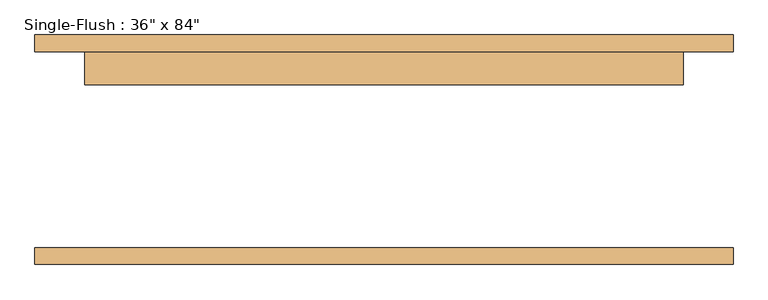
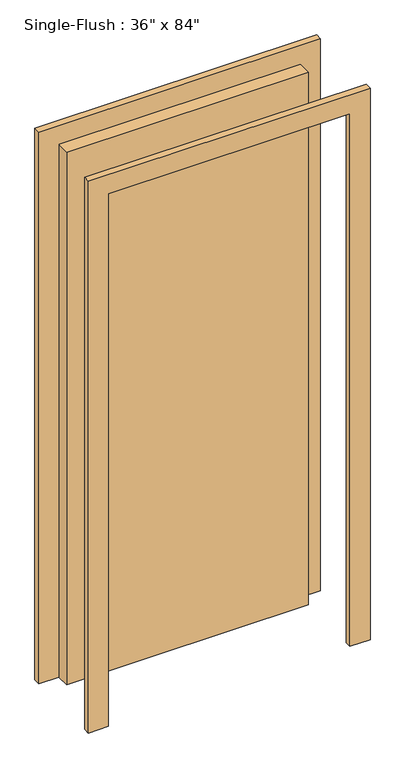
"""IFC4 building model written with IfcOpenShell, lengths in millimetres: door geometry."""

from ifc_helpers import new_model, si_unit, frame, origin, origin_with_axes, place, context, project, spatial, polyline, outline, extrude, source, transform, mapped, element, save


def door_2dbff2f1(model_context):
    return source(origin(), model_context, "Body", "SweptSolid", [
        extrude(outline(polyline([(2209.8, -533.4), (0.0, -533.4), (0.0, -457.2), (2133.6, -457.2), (2133.6, 457.2), (0.0, 457.2), (0.0, 533.4), (2209.8, 533.4), (2209.8, -533.4)])), frame((0.0, 150.0, 0.0), z_axis=(0.0, 1.0, 0.0), x_axis=(0.0, 0.0, 1.0)), (0.0, 0.0, 1.0), 25.4),
        extrude(outline(polyline([(2209.8, 533.4), (2209.8, -533.4), (0.0, -533.4), (0.0, -457.2), (2133.6, -457.2), (2133.6, 457.2), (0.0, 457.2), (0.0, 533.4), (2209.8, 533.4)])), frame((0.0, -175.4, 0.0), z_axis=(0.0, 1.0, 0.0), x_axis=(0.0, 0.0, 1.0)), (0.0, 0.0, 1.0), 25.4),
        extrude(outline(polyline([(457.2, 99.2), (-457.2, 99.2), (-457.2, 150.0), (457.2, 150.0), (457.2, 99.2)])), origin_with_axes(), (0.0, 0.0, 1.0), 2133.6),
    ])


if __name__ == "__main__":
    model = new_model("IFC4")
    model_context = context("Model", 3, world=origin())
    ifc_project = project(units=[si_unit("LENGTHUNIT", "METRE", prefix="MILLI")], contexts=[model_context])
    site = spatial("IfcSite", under=ifc_project)
    building = spatial("IfcBuilding", under=site)
    placement = place(None, origin())
    door_shape = door_2dbff2f1(model_context)
    element("IfcDoor", 1, ObjectType="Single-Flush : 36\" x 84\"", at=placement, inside=building, context=model_context, shape_type="MappedRepresentation", body=[
        mapped(door_shape, transform((0.0, 0.0, 0.0), x_axis=(1.0, 0.0, 0.0), y_axis=(0.0, 1.0, 0.0), z_axis=(0.0, 0.0, 1.0))),
    ])
    save(model, "model.ifc")
